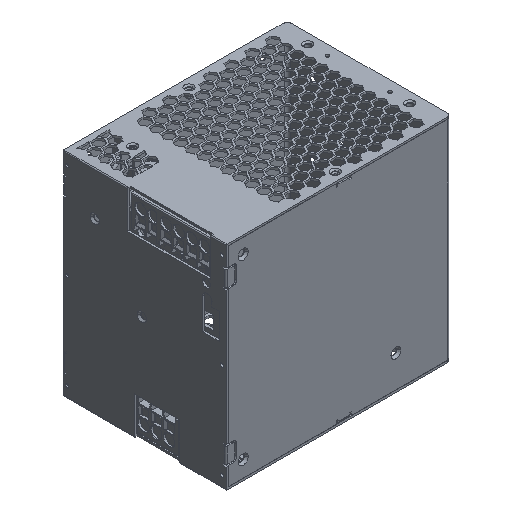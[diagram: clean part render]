
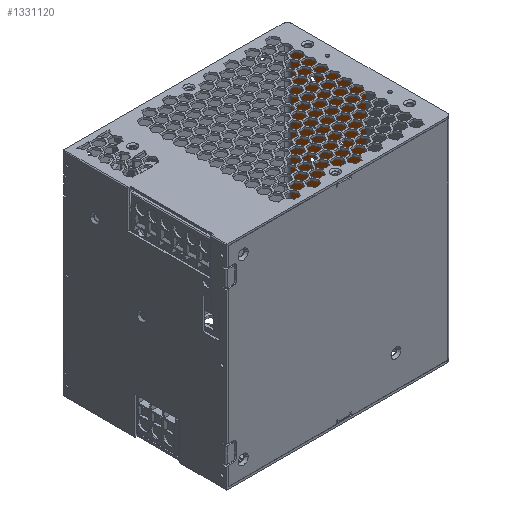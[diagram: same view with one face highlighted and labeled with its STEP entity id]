
A CAD part, isometric view. The second image highlights one B-rep face of the part: STEP entity #1331120.
In plain terms, the highlighted planar face has unit normal (-1, 0, 0).
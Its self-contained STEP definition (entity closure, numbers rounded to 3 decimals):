
#1328650=CARTESIAN_POINT('',(96.053,33.236,-47.5));
#1328660=VERTEX_POINT('',#1328650);
#1328690=CARTESIAN_POINT('',(96.053,33.236,0.));
#1328700=DIRECTION('',(0.,0.,-1.));
#1328710=VECTOR('',#1328700,1.);
#1328720=LINE('',#1328690,#1328710);
#1328730=CARTESIAN_POINT('',(96.053,33.236,71.5));
#1328740=VERTEX_POINT('',#1328730);
#1328750=EDGE_CURVE('',#1328740,#1328660,#1328720,.T.);
#1329280=CARTESIAN_POINT('',(96.053,148.037,70.3
));
#1329290=DIRECTION('',(1.,0.,0.));
#1329300=DIRECTION('',(0.,1.,0.));
#1329310=AXIS2_PLACEMENT_3D('',#1329280,#1329290,#1329300);
#1329320=PLANE('',#1329310);
#1329330=CARTESIAN_POINT('',(96.053,65.086,12.));
#1329340=DIRECTION('',(1.,0.,0.));
#1329350=DIRECTION('',(0.,-1.,0.));
#1329360=AXIS2_PLACEMENT_3D('',#1329330,#1329340,#1329350);
#1329370=CIRCLE('',#1329360,1.75);
#1329380=CARTESIAN_POINT('',(96.053,63.336,12.));
#1329390=VERTEX_POINT('',#1329380);
#1329400=CARTESIAN_POINT('',(96.053,66.836,12.));
#1329410=VERTEX_POINT('',#1329400);
#1329420=EDGE_CURVE('',#1329390,#1329410,#1329370,.T.);
#1329430=ORIENTED_EDGE('',*,*,#1329420,.T.);
#1329440=EDGE_CURVE('',#1329410,#1329390,#1329370,.T.);
#1329450=ORIENTED_EDGE('',*,*,#1329440,.T.);
#1329460=EDGE_LOOP('',(#1329450,#1329430));
#1329470=FACE_BOUND('',#1329460,.T.);
#1329480=CARTESIAN_POINT('',(96.053,65.086,53.6));
#1329490=DIRECTION('',(1.,0.,0.));
#1329500=DIRECTION('',(0.,-1.,0.));
#1329510=AXIS2_PLACEMENT_3D('',#1329480,#1329490,#1329500);
#1329520=CIRCLE('',#1329510,1.75);
#1329530=CARTESIAN_POINT('',(96.053,63.336,53.6));
#1329540=VERTEX_POINT('',#1329530);
#1329550=CARTESIAN_POINT('',(96.053,66.836,53.6));
#1329560=VERTEX_POINT('',#1329550);
#1329570=EDGE_CURVE('',#1329540,#1329560,#1329520,.T.);
#1329580=ORIENTED_EDGE('',*,*,#1329570,.T.);
#1329590=EDGE_CURVE('',#1329560,#1329540,#1329520,.T.);
#1329600=ORIENTED_EDGE('',*,*,#1329590,.T.);
#1329610=EDGE_LOOP('',(#1329600,#1329580));
#1329620=FACE_BOUND('',#1329610,.T.);
#1329630=CARTESIAN_POINT('',(96.053,48.236,29.015
));
#1329640=DIRECTION('',(1.,0.,0.));
#1329650=DIRECTION('',(0.,1.,0.));
#1329660=AXIS2_PLACEMENT_3D('',#1329630,#1329640,#1329650);
#1329670=CIRCLE('',#1329660,1.75);
#1329680=CARTESIAN_POINT('',(96.053,49.986,29.015
));
#1329690=VERTEX_POINT('',#1329680);
#1329700=CARTESIAN_POINT('',(96.053,46.486,29.015
));
#1329710=VERTEX_POINT('',#1329700);
#1329720=EDGE_CURVE('',#1329690,#1329710,#1329670,.T.);
#1329730=ORIENTED_EDGE('',*,*,#1329720,.T.);
#1329740=EDGE_CURVE('',#1329710,#1329690,#1329670,.T.);
#1329750=ORIENTED_EDGE('',*,*,#1329740,.T.);
#1329760=EDGE_LOOP('',(#1329750,#1329730));
#1329770=FACE_BOUND('',#1329760,.T.);
#1329780=CARTESIAN_POINT('',(96.053,65.086,-29.6));
#1329790=DIRECTION('',(1.,0.,0.));
#1329800=DIRECTION('',(0.,-1.,0.));
#1329810=AXIS2_PLACEMENT_3D('',#1329780,#1329790,#1329800);
#1329820=CIRCLE('',#1329810,1.75);
#1329830=CARTESIAN_POINT('',(96.053,63.336,-29.6));
#1329840=VERTEX_POINT('',#1329830);
#1329850=CARTESIAN_POINT('',(96.053,66.836,-29.6));
#1329860=VERTEX_POINT('',#1329850);
#1329870=EDGE_CURVE('',#1329840,#1329860,#1329820,.T.);
#1329880=ORIENTED_EDGE('',*,*,#1329870,.T.);
#1329890=EDGE_CURVE('',#1329860,#1329840,#1329820,.T.);
#1329900=ORIENTED_EDGE('',*,*,#1329890,.T.);
#1329910=EDGE_LOOP('',(#1329900,#1329880));
#1329920=FACE_BOUND('',#1329910,.T.);
#1329930=ORIENTED_EDGE('',*,*,#1328750,.F.);
#1329940=CARTESIAN_POINT('',(96.053,0.,-47.5));
#1329950=DIRECTION('',(0.,1.,0.));
#1329960=VECTOR('',#1329950,1.);
#1329970=LINE('',#1329940,#1329960);
#1329980=CARTESIAN_POINT('',(96.053,73.236,-47.5));
#1329990=VERTEX_POINT('',#1329980);
#1330000=EDGE_CURVE('',#1328660,#1329990,#1329970,.T.);
#1330010=ORIENTED_EDGE('',*,*,#1330000,.F.);
#1330020=CARTESIAN_POINT('',(96.053,73.236,0.6));
#1330030=DIRECTION('',(0.,0.,1.));
#1330040=VECTOR('',#1330030,1.);
#1330050=LINE('',#1330020,#1330040);
#1330060=CARTESIAN_POINT('',(96.053,73.236,-47.4));
#1330070=VERTEX_POINT('',#1330060);
#1330080=EDGE_CURVE('',#1329990,#1330070,#1330050,.T.);
#1330090=ORIENTED_EDGE('',*,*,#1330080,.F.);
#1330100=CARTESIAN_POINT('',(96.053,-7.,-47.4));
#1330110=DIRECTION('',(0.,1.,0.));
#1330120=VECTOR('',#1330110,1.);
#1330130=LINE('',#1330100,#1330120);
#1330140=CARTESIAN_POINT('',(96.053,75.236,-47.4));
#1330150=VERTEX_POINT('',#1330140);
#1330160=EDGE_CURVE('',#1330070,#1330150,#1330130,.T.);
#1330170=ORIENTED_EDGE('',*,*,#1330160,.F.);
#1330180=CARTESIAN_POINT('',(96.053,75.236,0.6));
#1330190=DIRECTION('',(0.,0.,-1.));
#1330200=VECTOR('',#1330190,1.);
#1330210=LINE('',#1330180,#1330200);
#1330220=CARTESIAN_POINT('',(96.053,75.236,-49.4));
#1330230=VERTEX_POINT('',#1330220);
#1330240=EDGE_CURVE('',#1330150,#1330230,#1330210,.T.);
#1330250=ORIENTED_EDGE('',*,*,#1330240,.F.);
#1330260=CARTESIAN_POINT('',(96.053,-7.,-49.4));
#1330270=DIRECTION('',(0.,1.,0.));
#1330280=VECTOR('',#1330270,1.);
#1330290=LINE('',#1330260,#1330280);
#1330300=CARTESIAN_POINT('',(96.053,78.136,-49.4));
#1330310=VERTEX_POINT('',#1330300);
#1330320=EDGE_CURVE('',#1330230,#1330310,#1330290,.T.);
#1330330=ORIENTED_EDGE('',*,*,#1330320,.F.);
#1330340=CARTESIAN_POINT('',(96.053,78.136,0.));
#1330350=DIRECTION('',(0.,0.,1.));
#1330360=VECTOR('',#1330350,1.);
#1330370=LINE('',#1330340,#1330360);
#1330380=CARTESIAN_POINT('',(96.053,78.136,73.4));
#1330390=VERTEX_POINT('',#1330380);
#1330400=EDGE_CURVE('',#1330310,#1330390,#1330370,.T.);
#1330410=ORIENTED_EDGE('',*,*,#1330400,.F.);
#1330420=CARTESIAN_POINT('',(96.053,-7.,73.4));
#1330430=DIRECTION('',(0.,-1.,0.));
#1330440=VECTOR('',#1330430,1.);
#1330450=LINE('',#1330420,#1330440);
#1330460=CARTESIAN_POINT('',(96.053,75.236,73.4));
#1330470=VERTEX_POINT('',#1330460);
#1330480=EDGE_CURVE('',#1330390,#1330470,#1330450,.T.);
#1330490=ORIENTED_EDGE('',*,*,#1330480,.F.);
#1330500=CARTESIAN_POINT('',(96.053,75.236,-0.6));
#1330510=DIRECTION('',(0.,0.,-1.));
#1330520=VECTOR('',#1330510,1.);
#1330530=LINE('',#1330500,#1330520);
#1330540=CARTESIAN_POINT('',(96.053,75.236,71.4));
#1330550=VERTEX_POINT('',#1330540);
#1330560=EDGE_CURVE('',#1330470,#1330550,#1330530,.T.);
#1330570=ORIENTED_EDGE('',*,*,#1330560,.F.);
#1330580=CARTESIAN_POINT('',(96.053,-7.,71.4));
#1330590=DIRECTION('',(0.,-1.,0.));
#1330600=VECTOR('',#1330590,1.);
#1330610=LINE('',#1330580,#1330600);
#1330620=CARTESIAN_POINT('',(96.053,73.236,71.4));
#1330630=VERTEX_POINT('',#1330620);
#1330640=EDGE_CURVE('',#1330550,#1330630,#1330610,.T.);
#1330650=ORIENTED_EDGE('',*,*,#1330640,.F.);
#1330660=CARTESIAN_POINT('',(96.053,73.236,-0.6));
#1330670=DIRECTION('',(0.,0.,1.));
#1330680=VECTOR('',#1330670,1.);
#1330690=LINE('',#1330660,#1330680);
#1330700=CARTESIAN_POINT('',(96.053,73.236,71.5));
#1330710=VERTEX_POINT('',#1330700);
#1330720=EDGE_CURVE('',#1330630,#1330710,#1330690,.T.);
#1330730=ORIENTED_EDGE('',*,*,#1330720,.F.);
#1330740=CARTESIAN_POINT('',(96.053,0.,71.5));
#1330750=DIRECTION('',(0.,-1.,0.));
#1330760=VECTOR('',#1330750,1.);
#1330770=LINE('',#1330740,#1330760);
#1330780=EDGE_CURVE('',#1330710,#1328740,#1330770,.T.);
#1330790=ORIENTED_EDGE('',*,*,#1330780,.F.);
#1330800=EDGE_LOOP('',(#1330790,#1330730,#1330650,#1330570,#1330490,
#1330410,#1330330,#1330250,#1330170,#1330090,#1330010,#1329930));
#1330810=FACE_OUTER_BOUND('',#1330800,.T.);
#1330820=CARTESIAN_POINT('',(96.053,51.736,3.015
));
#1330830=DIRECTION('',(1.,0.,0.));
#1330840=DIRECTION('',(0.,-1.,0.));
#1330850=AXIS2_PLACEMENT_3D('',#1330820,#1330830,#1330840);
#1330860=CIRCLE('',#1330850,1.7);
#1330870=CARTESIAN_POINT('',(96.053,50.036,3.015
));
#1330880=VERTEX_POINT('',#1330870);
#1330890=CARTESIAN_POINT('',(96.053,53.436,3.015
));
#1330900=VERTEX_POINT('',#1330890);
#1330910=EDGE_CURVE('',#1330880,#1330900,#1330860,.T.);
#1330920=ORIENTED_EDGE('',*,*,#1330910,.T.);
#1330930=EDGE_CURVE('',#1330900,#1330880,#1330860,.T.);
#1330940=ORIENTED_EDGE('',*,*,#1330930,.T.);
#1330950=EDGE_LOOP('',(#1330940,#1330920));
#1330960=FACE_BOUND('',#1330950,.T.);
#1330970=CARTESIAN_POINT('',(96.053,55.986,
-33.885));
#1330980=DIRECTION('',(1.,0.,0.));
#1330990=DIRECTION('',(0.,1.,0.));
#1331000=AXIS2_PLACEMENT_3D('',#1330970,#1330980,#1330990);
#1331010=CIRCLE('',#1331000,1.7);
#1331020=CARTESIAN_POINT('',(96.053,57.686,
-33.885));
#1331030=VERTEX_POINT('',#1331020);
#1331040=CARTESIAN_POINT('',(96.053,54.286,
-33.885));
#1331050=VERTEX_POINT('',#1331040);
#1331060=EDGE_CURVE('',#1331030,#1331050,#1331010,.T.);
#1331070=ORIENTED_EDGE('',*,*,#1331060,.T.);
#1331080=EDGE_CURVE('',#1331050,#1331030,#1331010,.T.);
#1331090=ORIENTED_EDGE('',*,*,#1331080,.T.);
#1331100=EDGE_LOOP('',(#1331090,#1331070));
#1331110=FACE_BOUND('',#1331100,.T.);
#1331120=ADVANCED_FACE('',(#1329470,#1329620,#1329770,#1329920,#1330810,
#1330960,#1331110),#1329320,.F.);
